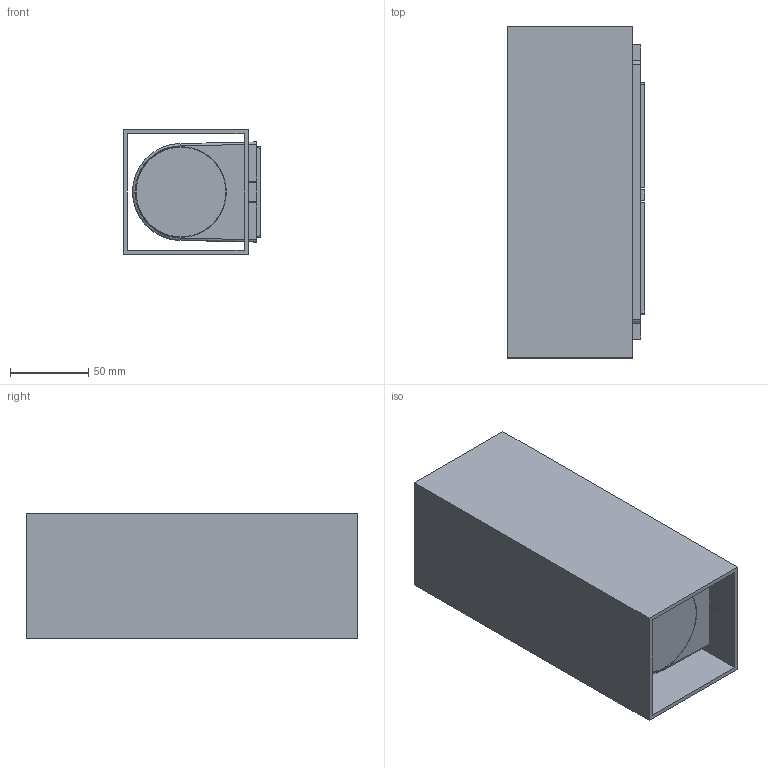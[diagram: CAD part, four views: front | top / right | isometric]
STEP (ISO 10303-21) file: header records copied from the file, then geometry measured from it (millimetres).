
FILE_DESCRIPTION(/* description */ (''),/* implementation_level */ '2;1');
FILE_NAME(/* name */ 'kov_2l_square_walllamp.step',/* time_stamp */ '2025-02-20T10:12:33+01:00',/* author */ ('RenataManzini'),/* organization */ (''),/* preprocessor_version */ 'ST-DEVELOPER v20',/* originating_system */ 'AutoCAD Mechanical',/* authorisation */ '');
FILE_SCHEMA (('AUTOMOTIVE_DESIGN { 1 0 10303 214 3 1 1 }'));
Products named in the file (14): Product; Q1260-ASM_ASM; Q1260; G0642; M4X08PINGTOULUOSI6J; M5X8JIMILUOSI; F0534; Q1261; Y04-0012; M0734; I0501A; HKY0B14D316YGL3_1; HKY0B14D316YGL3_2; HKY0B14D316YGL3_4
Assembly tree (19 placements, depth 3):
  Product
    Q1260-ASM_ASM
      Q1260
      G0642  x2
      M4X08PINGTOULUOSI6J  x2
      M5X8JIMILUOSI  x2
      F0534
    Q1261
    Y04-0012  x2
    M0734
    I0501A
    HKY0B14D316YGL3_2  x2
    HKY0B14D316YGL3_4  x2
    HKY0B14D316YGL3_1
Bounding box: 88 x 212 x 80 mm (x, y, z)
Volume: 443032 mm3; surface area: 289740.9 mm2
Topology: 18 solids, 40 shells, 1983 faces, 5368 edges, 3413 vertices
Faces by surface type: plane 948, cylinder 370, cone 296, bspline 256, torus 77, sphere 36
Entity records: 60560 total; most frequent: CARTESIAN_POINT 24692, ORIENTED_EDGE 7660, DIRECTION 6993, EDGE_CURVE 3871, VERTEX_POINT 2501, AXIS2_PLACEMENT_3D 2367, LINE 2259, VECTOR 2259
